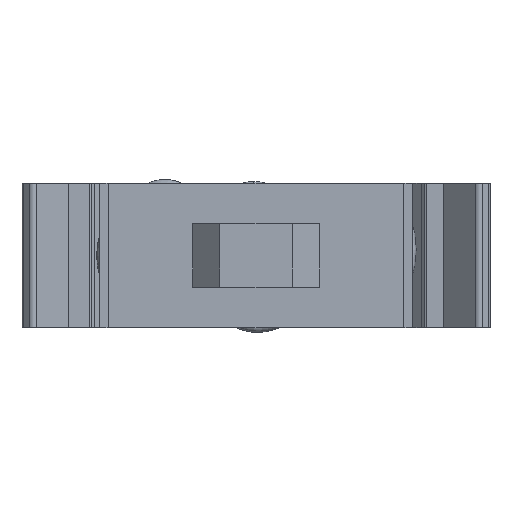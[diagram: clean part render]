
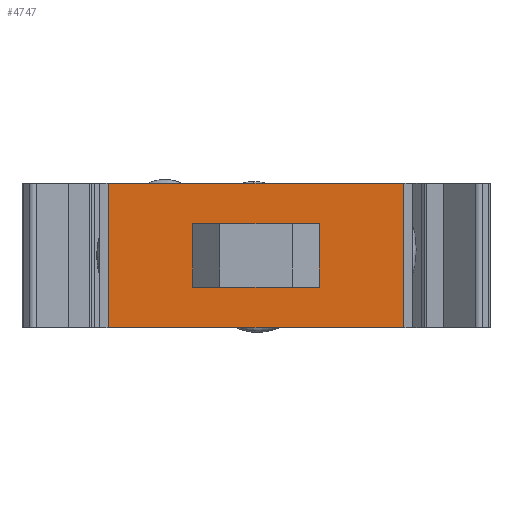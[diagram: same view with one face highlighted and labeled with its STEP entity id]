
A CAD part, front view. The second image highlights one B-rep face of the part: STEP entity #4747.
In plain terms, the highlighted planar face has unit normal (0, -1, 0).
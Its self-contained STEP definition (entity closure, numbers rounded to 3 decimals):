
#61 = EDGE_CURVE ( 'NONE', #1262, #4885, #1522, .T. ) ;
#82 = CARTESIAN_POINT ( 'NONE',  ( -16.3, 0., 8. ) ) ;
#91 = CARTESIAN_POINT ( 'NONE',  ( -16.3, 0., 8. ) ) ;
#111 = VECTOR ( 'NONE', #903, 1000. ) ;
#151 = VERTEX_POINT ( 'NONE', #1411 ) ;
#197 = LINE ( 'NONE', #5100, #3855 ) ;
#206 = CARTESIAN_POINT ( 'NONE',  ( -16.3, 0., -8. ) ) ;
#332 = DIRECTION ( 'NONE',  ( 0., 1., 0. ) ) ;
#339 = EDGE_CURVE ( 'NONE', #151, #853, #1263, .T. ) ;
#453 = VECTOR ( 'NONE', #5303, 1000. ) ;
#629 = AXIS2_PLACEMENT_3D ( 'NONE', #1520, #332, #2693 ) ;
#631 = DIRECTION ( 'NONE',  ( 1., 0., 0. ) ) ;
#649 = CARTESIAN_POINT ( 'NONE',  ( 0., 0., 3.5 ) ) ;
#768 = VERTEX_POINT ( 'NONE', #1644 ) ;
#784 = VECTOR ( 'NONE', #631, 1000. ) ;
#840 = CARTESIAN_POINT ( 'NONE',  ( 0., 0., -3.5 ) ) ;
#853 = VERTEX_POINT ( 'NONE', #1556 ) ;
#903 = DIRECTION ( 'NONE',  ( 0., 0., 1. ) ) ;
#933 = VECTOR ( 'NONE', #1731, 1000. ) ;
#983 = LINE ( 'NONE', #2235, #111 ) ;
#1241 = ORIENTED_EDGE ( 'NONE', *, *, #4187, .T. ) ;
#1262 = VERTEX_POINT ( 'NONE', #3420 ) ;
#1263 = LINE ( 'NONE', #840, #933 ) ;
#1306 = CARTESIAN_POINT ( 'NONE',  ( 16.3, 0., -8. ) ) ;
#1311 = AXIS2_PLACEMENT_3D ( 'NONE', #82, #5053, #3072 ) ;
#1374 = FACE_OUTER_BOUND ( 'NONE', #3711, .T. ) ;
#1411 = CARTESIAN_POINT ( 'NONE',  ( 0., 0., -3.5 ) ) ;
#1456 = EDGE_CURVE ( 'NONE', #4276, #151, #2348, .T. ) ;
#1520 = CARTESIAN_POINT ( 'NONE',  ( 0., 0., -0.5 ) ) ;
#1522 = LINE ( 'NONE', #206, #4847 ) ;
#1556 = CARTESIAN_POINT ( 'NONE',  ( -4., 0., -3.5 ) ) ;
#1600 = LINE ( 'NONE', #3270, #4104 ) ;
#1644 = CARTESIAN_POINT ( 'NONE',  ( -4., 0., -0.5 ) ) ;
#1731 = DIRECTION ( 'NONE',  ( -1., 0., 0. ) ) ;
#1761 = PLANE ( 'NONE',  #1311 ) ;
#1891 = ORIENTED_EDGE ( 'NONE', *, *, #61, .T. ) ;
#1906 = LINE ( 'NONE', #3130, #453 ) ;
#1924 = ORIENTED_EDGE ( 'NONE', *, *, #1456, .T. ) ;
#1928 = CIRCLE ( 'NONE', #629, 4. ) ;
#1943 = EDGE_CURVE ( 'NONE', #4447, #4885, #1600, .T. ) ;
#1963 = CARTESIAN_POINT ( 'NONE',  ( 4., 0., 0.5 ) ) ;
#2135 = ORIENTED_EDGE ( 'NONE', *, *, #4841, .T. ) ;
#2151 = ORIENTED_EDGE ( 'NONE', *, *, #4197, .T. ) ;
#2194 = VERTEX_POINT ( 'NONE', #4807 ) ;
#2235 = CARTESIAN_POINT ( 'NONE',  ( -4., 0., -3.5 ) ) ;
#2348 = CIRCLE ( 'NONE', #3131, 4. ) ;
#2424 = VERTEX_POINT ( 'NONE', #2488 ) ;
#2488 = CARTESIAN_POINT ( 'NONE',  ( 4., 0., 3.5 ) ) ;
#2652 = CARTESIAN_POINT ( 'NONE',  ( 16.3, 0., 8. ) ) ;
#2693 = DIRECTION ( 'NONE',  ( 1., 0., 0. ) ) ;
#2731 = ORIENTED_EDGE ( 'NONE', *, *, #1943, .F. ) ;
#2759 = LINE ( 'NONE', #4877, #3415 ) ;
#2921 = EDGE_CURVE ( 'NONE', #2194, #2424, #3912, .T. ) ;
#3072 = DIRECTION ( 'NONE',  ( 1., 0., 0. ) ) ;
#3130 = CARTESIAN_POINT ( 'NONE',  ( 4., 0., 3.5 ) ) ;
#3131 = AXIS2_PLACEMENT_3D ( 'NONE', #3614, #3173, #4072 ) ;
#3173 = DIRECTION ( 'NONE',  ( 0., 1., 0. ) ) ;
#3270 = CARTESIAN_POINT ( 'NONE',  ( 16.3, 0., 8. ) ) ;
#3376 = FACE_BOUND ( 'NONE', #4028, .T. ) ;
#3415 = VECTOR ( 'NONE', #4045, 1000. ) ;
#3420 = CARTESIAN_POINT ( 'NONE',  ( -16.3, 0., -8. ) ) ;
#3593 = ORIENTED_EDGE ( 'NONE', *, *, #4963, .T. ) ;
#3614 = CARTESIAN_POINT ( 'NONE',  ( 0., 0., 0.5 ) ) ;
#3631 = ORIENTED_EDGE ( 'NONE', *, *, #339, .T. ) ;
#3711 = EDGE_LOOP ( 'NONE', ( #1891, #2731, #4796, #3593 ) ) ;
#3745 = VERTEX_POINT ( 'NONE', #91 ) ;
#3855 = VECTOR ( 'NONE', #5222, 1000. ) ;
#3912 = LINE ( 'NONE', #649, #784 ) ;
#3959 = DIRECTION ( 'NONE',  ( 1., 0., 0. ) ) ;
#4028 = EDGE_LOOP ( 'NONE', ( #3631, #2135, #2151, #4931, #1241, #1924 ) ) ;
#4045 = DIRECTION ( 'NONE',  ( 0., 0., -1. ) ) ;
#4072 = DIRECTION ( 'NONE',  ( 1., 0., 0. ) ) ;
#4104 = VECTOR ( 'NONE', #4919, 1000. ) ;
#4187 = EDGE_CURVE ( 'NONE', #2424, #4276, #1906, .T. ) ;
#4197 = EDGE_CURVE ( 'NONE', #768, #2194, #1928, .T. ) ;
#4276 = VERTEX_POINT ( 'NONE', #1963 ) ;
#4447 = VERTEX_POINT ( 'NONE', #2652 ) ;
#4747 = ADVANCED_FACE ( 'NONE', ( #1374, #3376 ), #1761, .F. ) ;
#4796 = ORIENTED_EDGE ( 'NONE', *, *, #5343, .F. ) ;
#4807 = CARTESIAN_POINT ( 'NONE',  ( 0., 0., 3.5 ) ) ;
#4841 = EDGE_CURVE ( 'NONE', #853, #768, #983, .T. ) ;
#4847 = VECTOR ( 'NONE', #3959, 1000. ) ;
#4877 = CARTESIAN_POINT ( 'NONE',  ( -16.3, 0., 8. ) ) ;
#4885 = VERTEX_POINT ( 'NONE', #1306 ) ;
#4919 = DIRECTION ( 'NONE',  ( 0., 0., -1. ) ) ;
#4931 = ORIENTED_EDGE ( 'NONE', *, *, #2921, .T. ) ;
#4963 = EDGE_CURVE ( 'NONE', #3745, #1262, #2759, .T. ) ;
#5053 = DIRECTION ( 'NONE',  ( 0., 1., 0. ) ) ;
#5100 = CARTESIAN_POINT ( 'NONE',  ( -16.3, 0., 8. ) ) ;
#5222 = DIRECTION ( 'NONE',  ( 1., 0., 0. ) ) ;
#5303 = DIRECTION ( 'NONE',  ( 0., 0., -1. ) ) ;
#5343 = EDGE_CURVE ( 'NONE', #3745, #4447, #197, .T. ) ;
